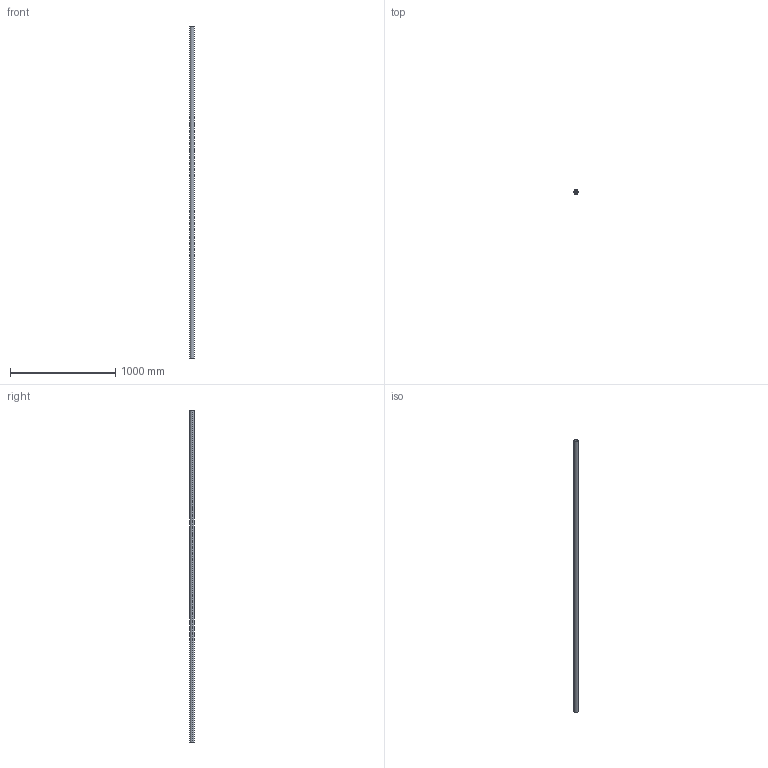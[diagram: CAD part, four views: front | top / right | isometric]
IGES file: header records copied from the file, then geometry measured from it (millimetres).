
Start section: SolidWorks IGES file using analytic representation for surfaces
Global section: file name: C:\Users\IanO\Desktop\L1771_v2\L1771.40_v2\L1771.40_v2_20230705_IGES\L1771.40-3150.igs; native system: SolidWorks 2019; preprocessor: SolidWorks 2019; author: IanO; date: 230705.161712; units: millimetre
Bounding box: 40 x 40 x 3150 mm (x, y, z)
Surface area: 674210.9 mm2 (no closed solid volume)
Topology: 0 solids, 0 shells, 6 faces, 272 edges, 272 vertices
Faces by surface type: revolution 4, bspline 2
